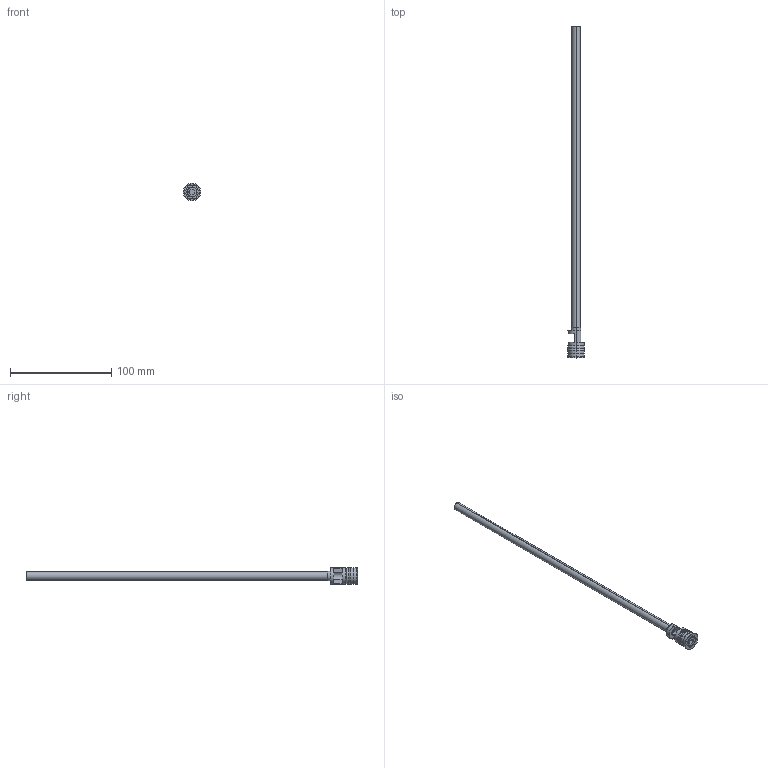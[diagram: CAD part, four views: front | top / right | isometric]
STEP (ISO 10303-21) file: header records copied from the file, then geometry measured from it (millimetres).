
FILE_DESCRIPTION (( 'STEP AP203' ), '1' );
FILE_NAME ('RF-16Fx300.STEP', '2015-11-24T10:53:52', ( 'Balzi' ), ( '' ), 'SwSTEP 2.0', 'SolidWorks 2015', '' );
FILE_SCHEMA (( 'CONFIG_CONTROL_DESIGN' ));
Length unit declared in the file: millimetre
Products named in the file (1): RF-16Fx300
Bounding box: 17.5 x 327.5 x 17.5 mm (x, y, z)
Volume: 6955 mm3; surface area: 16741.3 mm2
Topology: 1 solids, 1 shells, 74 faces, 170 edges, 106 vertices
Faces by surface type: cylinder 26, plane 26, cone 14, torus 8
Entity records: 2194 total; most frequent: DIRECTION 401, CARTESIAN_POINT 370, ORIENTED_EDGE 340, EDGE_CURVE 170, AXIS2_PLACEMENT_3D 161, VERTEX_POINT 106, CIRCLE 86, EDGE_LOOP 84
